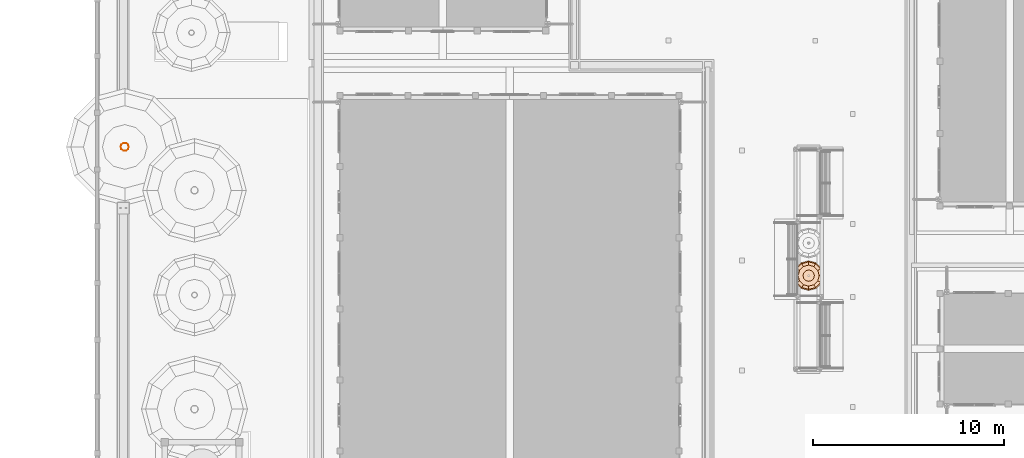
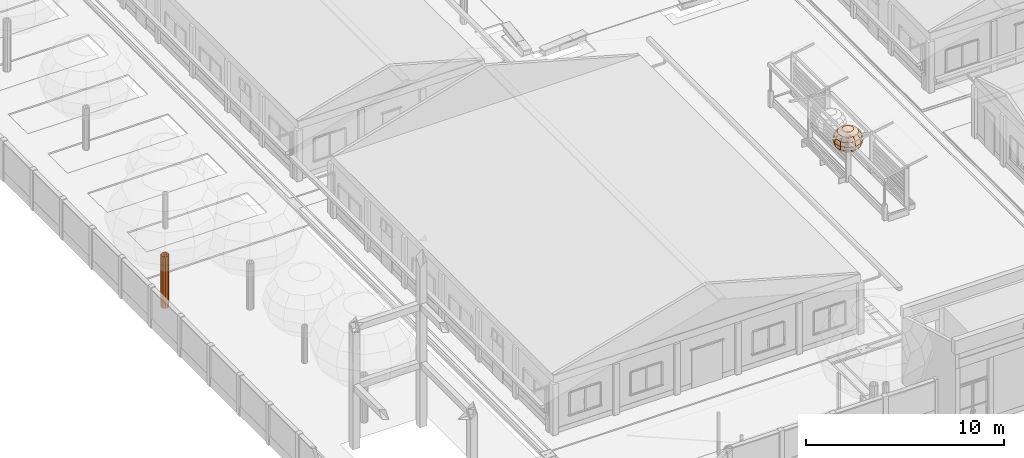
# One storey, part 158 of 177: 2 geographic elements.
"""IFC4 building model written with IfcOpenShell, lengths in metres."""

from ifc_helpers import new_model, si_unit, origin, origin_with_axes, place, context, subcontext, project, spatial, triangles, element, save


model = new_model("IFC4")

# Units and contexts
model_context = context("Model", 3, precision=1e-05, world=origin_with_axes())
body_context = subcontext(model_context, "Body", "Model", "MODEL_VIEW")
ifc_project = project(units=[si_unit("LENGTHUNIT", "METRE"), si_unit("AREAUNIT", "SQUARE_METRE"), si_unit("VOLUMEUNIT", "CUBIC_METRE"), si_unit("PLANEANGLEUNIT", "RADIAN")], contexts=[model_context])

# Site, building, storey
site_placement = place(None, origin_with_axes())
site = spatial("IfcSite", under=ifc_project, at=site_placement, Name="Predio Los Mangos - Morales, San Martín", CompositionType="ELEMENT")
building_placement = place(site_placement, origin())
building = spatial("IfcBuilding", under=site, at=building_placement, Name="Hogar de Refugio Temporal", CompositionType="ELEMENT")
storey_placement = place(building_placement, origin())
storey = spatial("IfcBuildingStorey", under=building, at=storey_placement, Name="NIVEL 1 (NPT +0.00)", CompositionType="ELEMENT", Elevation=0.0)

# Geographic elements
geographic_element_1_placement = place(storey_placement, origin())
element("IfcGeographicElement", 1, at=geographic_element_1_placement, inside=storey, Name="arbol_tronco", ObjectType="Árbol", PredefinedType="NOTDEFINED", context=body_context, shape_type="Tessellation", body=[
    triangles([(2.7132, 46.0, 0.0), (2.6725, 46.1253, 0.0), (2.5659, 46.2028, 0.0), (2.4341, 46.2028, 0.0), (2.3275, 46.1253, 0.0), (2.2868, 46.0, 0.0), (2.3275, 45.8747, 0.0), (2.4341, 45.7972, 0.0), (2.5659, 45.7972, 0.0), (2.6725, 45.8747, 0.0), (2.7132, 46.0, 3.1982), (2.6725, 46.1253, 3.1982), (2.5659, 46.2028, 3.1982), (2.4341, 46.2028, 3.1982), (2.3275, 46.1253, 3.1982), (2.2868, 46.0, 3.1982), (2.3275, 45.8747, 3.1982), (2.4341, 45.7972, 3.1982), (2.5659, 45.7972, 3.1982), (2.6725, 45.8747, 3.1982)], [[1, 2, 12], [2, 3, 13], [3, 4, 14], [4, 5, 15], [5, 6, 16], [6, 7, 17], [7, 8, 18], [8, 9, 19], [9, 10, 20], [10, 1, 11], [1, 12, 11], [2, 13, 12], [3, 14, 13], [4, 15, 14], [5, 16, 15], [6, 17, 16], [7, 18, 17], [8, 19, 18], [9, 20, 19], [10, 11, 20]]),
])
geographic_element_2_placement = place(storey_placement, origin())
element("IfcGeographicElement", 2, at=geographic_element_2_placement, inside=storey, Name="arbol_copa", ObjectType="Árbol", PredefinedType="NOTDEFINED", context=body_context, shape_type="Tessellation", body=[
    triangles([(38.4, 39.245, 2.5172), (38.4, 39.245, 2.5172), (38.4, 39.245, 2.5172), (38.4, 39.245, 2.5172), (38.4, 39.245, 2.5172), (38.4, 39.245, 2.5172), (38.4, 39.245, 2.5172), (38.4, 39.245, 2.5172), (38.4, 39.245, 2.5172), (38.4, 39.245, 2.5172), (38.4, 39.245, 2.5172), (38.4, 39.245, 2.5172), (38.6993, 39.245, 2.4666), (38.6592, 39.3946, 2.4666), (38.5496, 39.5042, 2.4666), (38.4, 39.5443, 2.4666), (38.2504, 39.5042, 2.4666), (38.1408, 39.3946, 2.4666), (38.1007, 39.245, 2.4666), (38.1408, 39.0954, 2.4666), (38.2504, 38.9858, 2.4666), (38.4, 38.9457, 2.4666), (38.5496, 38.9858, 2.4666), (38.6592, 39.0954, 2.4666), (38.953, 39.245, 2.3225), (38.8789, 39.5215, 2.3225), (38.6765, 39.7239, 2.3225), (38.4, 39.798, 2.3225), (38.1235, 39.7239, 2.3225), (37.9211, 39.5215, 2.3225), (37.847, 39.245, 2.3225), (37.9211, 38.9685, 2.3225), (38.1235, 38.7661, 2.3225), (38.4, 38.692, 2.3225), (38.6765, 38.7661, 2.3225), (38.8789, 38.9685, 2.3225), (39.1225, 39.245, 2.1069), (39.0257, 39.6062, 2.1069), (38.7612, 39.8707, 2.1069), (38.4, 39.9675, 2.1069), (38.0388, 39.8707, 2.1069), (37.7743, 39.6062, 2.1069), (37.6775, 39.245, 2.1069), (37.7743, 38.8838, 2.1069), (38.0388, 38.6193, 2.1069), (38.4, 38.5225, 2.1069), (38.7612, 38.6193, 2.1069), (39.0257, 38.8838, 2.1069), (39.182, 39.245, 1.8525), (39.0772, 39.636, 1.8525), (38.791, 39.9222, 1.8525), (38.4, 40.027, 1.8525), (38.009, 39.9222, 1.8525), (37.7228, 39.636, 1.8525), (37.618, 39.245, 1.8525), (37.7228, 38.854, 1.8525), (38.009, 38.5678, 1.8525), (38.4, 38.463, 1.8525), (38.791, 38.5678, 1.8525), (39.0772, 38.854, 1.8525), (39.1225, 39.245, 1.5981), (39.0257, 39.6062, 1.5981), (38.7612, 39.8707, 1.5981), (38.4, 39.9675, 1.5981), (38.0388, 39.8707, 1.5981), (37.7743, 39.6062, 1.5981), (37.6775, 39.245, 1.5981), (37.7743, 38.8838, 1.5981), (38.0388, 38.6193, 1.5981), (38.4, 38.5225, 1.5981), (38.7612, 38.6193, 1.5981), (39.0257, 38.8838, 1.5981), (38.953, 39.245, 1.3825), (38.8789, 39.5215, 1.3825), (38.6765, 39.7239, 1.3825), (38.4, 39.798, 1.3825), (38.1235, 39.7239, 1.3825), (37.9211, 39.5215, 1.3825), (37.847, 39.245, 1.3825), (37.9211, 38.9685, 1.3825), (38.1235, 38.7661, 1.3825), (38.4, 38.692, 1.3825), (38.6765, 38.7661, 1.3825), (38.8789, 38.9685, 1.3825), (38.6993, 39.245, 1.2384), (38.6592, 39.3946, 1.2384), (38.5496, 39.5042, 1.2384), (38.4, 39.5443, 1.2384), (38.2504, 39.5042, 1.2384), (38.1408, 39.3946, 1.2384), (38.1007, 39.245, 1.2384), (38.1408, 39.0954, 1.2384), (38.2504, 38.9858, 1.2384), (38.4, 38.9457, 1.2384), (38.5496, 38.9858, 1.2384), (38.6592, 39.0954, 1.2384), (38.4, 39.245, 1.1878), (38.4, 39.245, 1.1878), (38.4, 39.245, 1.1878), (38.4, 39.245, 1.1878), (38.4, 39.245, 1.1878), (38.4, 39.245, 1.1878), (38.4, 39.245, 1.1878), (38.4, 39.245, 1.1878), (38.4, 39.245, 1.1878), (38.4, 39.245, 1.1878), (38.4, 39.245, 1.1878), (38.4, 39.245, 1.1878)], [[1, 2, 14], [1, 14, 13], [2, 3, 15], [2, 15, 14], [3, 4, 16], [3, 16, 15], [4, 5, 17], [4, 17, 16], [5, 6, 18], [5, 18, 17], [6, 7, 19], [6, 19, 18], [7, 8, 20], [7, 20, 19], [8, 9, 21], [8, 21, 20], [9, 10, 22], [9, 22, 21], [10, 11, 23], [10, 23, 22], [11, 12, 24], [11, 24, 23], [12, 1, 13], [12, 13, 24], [13, 14, 26], [13, 26, 25], [14, 15, 27], [14, 27, 26], [15, 16, 28], [15, 28, 27], [16, 17, 29], [16, 29, 28], [17, 18, 30], [17, 30, 29], [18, 19, 31], [18, 31, 30], [19, 20, 32], [19, 32, 31], [20, 21, 33], [20, 33, 32], [21, 22, 34], [21, 34, 33], [22, 23, 35], [22, 35, 34], [23, 24, 36], [23, 36, 35], [24, 13, 25], [24, 25, 36], [25, 26, 38], [25, 38, 37], [26, 27, 39], [26, 39, 38], [27, 28, 40], [27, 40, 39], [28, 29, 41], [28, 41, 40], [29, 30, 42], [29, 42, 41], [30, 31, 43], [30, 43, 42], [31, 32, 44], [31, 44, 43], [32, 33, 45], [32, 45, 44], [33, 34, 46], [33, 46, 45], [34, 35, 47], [34, 47, 46], [35, 36, 48], [35, 48, 47], [36, 25, 37], [36, 37, 48], [37, 38, 50], [37, 50, 49], [38, 39, 51], [38, 51, 50], [39, 40, 52], [39, 52, 51], [40, 41, 53], [40, 53, 52], [41, 42, 54], [41, 54, 53], [42, 43, 55], [42, 55, 54], [43, 44, 56], [43, 56, 55], [44, 45, 57], [44, 57, 56], [45, 46, 58], [45, 58, 57], [46, 47, 59], [46, 59, 58], [47, 48, 60], [47, 60, 59], [48, 37, 49], [48, 49, 60], [49, 50, 62], [49, 62, 61], [50, 51, 63], [50, 63, 62], [51, 52, 64], [51, 64, 63], [52, 53, 65], [52, 65, 64], [53, 54, 66], [53, 66, 65], [54, 55, 67], [54, 67, 66], [55, 56, 68], [55, 68, 67], [56, 57, 69], [56, 69, 68], [57, 58, 70], [57, 70, 69], [58, 59, 71], [58, 71, 70], [59, 60, 72], [59, 72, 71], [60, 49, 61], [60, 61, 72], [61, 62, 74], [61, 74, 73], [62, 63, 75], [62, 75, 74], [63, 64, 76], [63, 76, 75], [64, 65, 77], [64, 77, 76], [65, 66, 78], [65, 78, 77], [66, 67, 79], [66, 79, 78], [67, 68, 80], [67, 80, 79], [68, 69, 81], [68, 81, 80], [69, 70, 82], [69, 82, 81], [70, 71, 83], [70, 83, 82], [71, 72, 84], [71, 84, 83], [72, 61, 73], [72, 73, 84], [73, 74, 86], [73, 86, 85], [74, 75, 87], [74, 87, 86], [75, 76, 88], [75, 88, 87], [76, 77, 89], [76, 89, 88], [77, 78, 90], [77, 90, 89], [78, 79, 91], [78, 91, 90], [79, 80, 92], [79, 92, 91], [80, 81, 93], [80, 93, 92], [81, 82, 94], [81, 94, 93], [82, 83, 95], [82, 95, 94], [83, 84, 96], [83, 96, 95], [84, 73, 85], [84, 85, 96], [85, 86, 98], [85, 98, 97], [86, 87, 99], [86, 99, 98], [87, 88, 100], [87, 100, 99], [88, 89, 101], [88, 101, 100], [89, 90, 102], [89, 102, 101], [90, 91, 103], [90, 103, 102], [91, 92, 104], [91, 104, 103], [92, 93, 105], [92, 105, 104], [93, 94, 106], [93, 106, 105], [94, 95, 107], [94, 107, 106], [95, 96, 108], [95, 108, 107], [96, 85, 97], [96, 97, 108]]),
])

save(model, "model.ifc")
